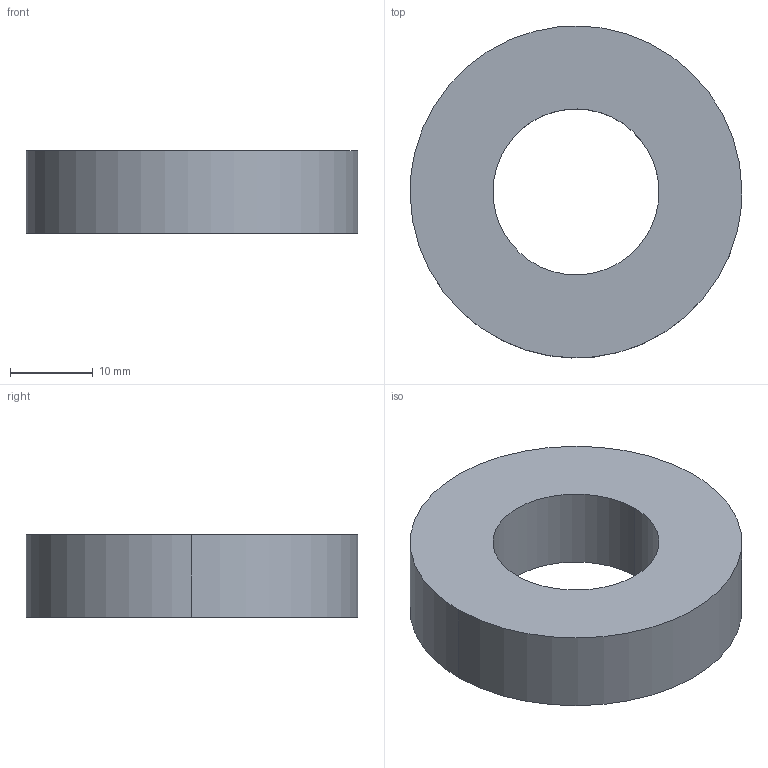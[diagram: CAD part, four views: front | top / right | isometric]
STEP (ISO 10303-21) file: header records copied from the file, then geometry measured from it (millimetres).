
FILE_DESCRIPTION(/* description */ (''),/* implementation_level */ '2;1');
FILE_NAME(/* name */ 'Washer 2',/* time_stamp */ '2019-03-30T18:21:58-04:00',/* author */ (''),/* organization */ (''),/* preprocessor_version */ 'ST-DEVELOPER v15',/* originating_system */ '',/* authorisation */ '');
FILE_SCHEMA (('AUTOMOTIVE_DESIGN'));
Length unit declared in the file: millimetre
Products named in the file (1): Document
Bounding box: 40 x 39.99 x 10 mm (x, y, z)
Volume: 9447.4 mm3; surface area: 3772.3 mm2
Topology: 1 solids, 1 shells, 6 faces, 12 edges, 8 vertices
Faces by surface type: bspline 4, plane 2
Entity records: 197 total; most frequent: CARTESIAN_POINT 100, ORIENTED_EDGE 24, EDGE_CURVE 12, EDGE_LOOP 8, VERTEX_POINT 8, ADVANCED_FACE 6, FACE_OUTER_BOUND 6, DIRECTION 6
